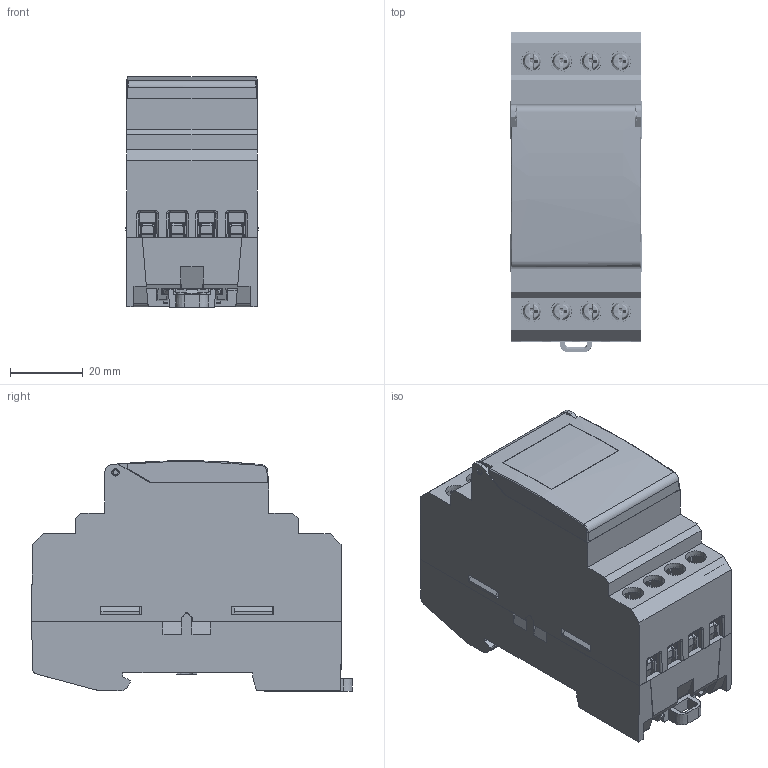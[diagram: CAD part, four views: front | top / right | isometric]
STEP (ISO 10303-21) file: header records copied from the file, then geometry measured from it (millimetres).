
FILE_DESCRIPTION((''),'2;1');
FILE_NAME('04-565_ASM','2020-04-17T09:53:26',('munschp'),(''),'CREO PARAMETRIC BY PTC INC, 2019164','CREO PARAMETRIC BY PTC INC, 2019164','');
FILE_SCHEMA(('AUTOMOTIVE_DESIGN { 1 0 10303 214 1 1 1 1 }'));
Products named in the file (20): 8108-322-XX; 8172-021-XX; 8301-088-XX; 8615-225-XX; 8192-015-XX; 8245-255-XX; 8217-266-00; 890-8054-XX_ASM; 8667-011-XX; 8665-150-XX; 8245-267-00; 8122-088-XX; 0A0034; 0V0023; 0A0035; 0A0036_ASM; 8350-173-00; 890-5193-00_ASM; 890-5190-00_ASM; 04-565_ASM
Assembly tree (26 placements, depth 5):
  04-565_ASM
    8108-322-XX
    8172-021-XX
    8301-088-XX
    8615-225-XX
    8192-015-XX
    890-8054-XX_ASM
      8245-255-XX
      8217-266-00
    8667-011-XX
    8665-150-XX
    890-5190-00_ASM
      8245-267-00
      890-5193-00_ASM  x2
        8122-088-XX
        0A0036_ASM
          0A0034
          0V0023
          0A0035
        8350-173-00
Bounding box: 36.4 x 87.9 x 63.2 mm (x, y, z)
Volume: 52875 mm3; surface area: 84812.4 mm2
Topology: 49 solids, 49 shells, 5052 faces, 13989 edges, 9645 vertices
Faces by surface type: plane 3195, cylinder 970, cone 344, bspline 270, extrusion 163, torus 90, sphere 20
Entity records: 118247 total; most frequent: CARTESIAN_POINT 28254, ORIENTED_EDGE 12836, DIRECTION 11444, PRESENTATION_STYLE_ASSIGNMENT 7151, STYLED_ITEM 7091, CURVE_STYLE 6524, EDGE_CURVE 6418, VECTOR 5254
